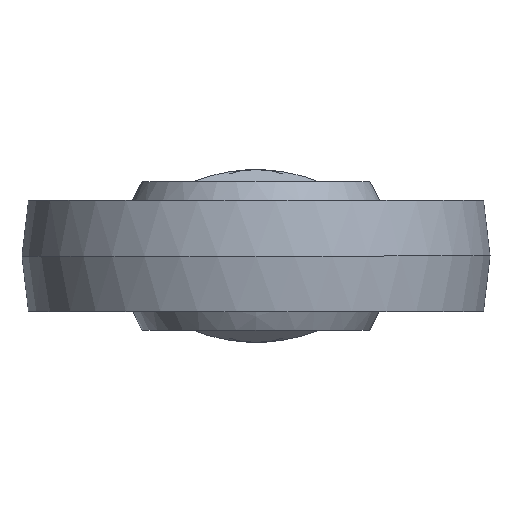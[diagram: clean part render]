
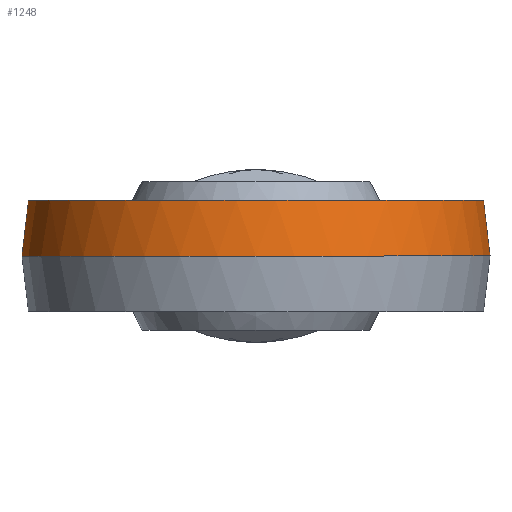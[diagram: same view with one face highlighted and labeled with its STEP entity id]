
A CAD part, left-side view. The second image highlights one B-rep face of the part: STEP entity #1248.
In plain terms, the highlighted spherical face has radius 19 mm.
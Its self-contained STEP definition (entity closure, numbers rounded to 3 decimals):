
#492 = DIRECTION ( 'NONE',  ( -1., 0., 0. ) ) ;
#493 = DIRECTION ( 'NONE',  ( 0., 0., -1. ) ) ;
#494 = CARTESIAN_POINT ( 'NONE',  ( 0., 0., 0. ) ) ;
#495 = AXIS2_PLACEMENT_3D ( 'NONE', #494, #493, #492 ) ;
#496 = CIRCLE ( 'NONE', #495, 19. ) ;
#539 = DIRECTION ( 'NONE',  ( 0., 1., 0. ) ) ;
#540 = DIRECTION ( 'NONE',  ( 0., 0., 1. ) ) ;
#541 = CARTESIAN_POINT ( 'NONE',  ( 0., 0., 0. ) ) ;
#542 = AXIS2_PLACEMENT_3D ( 'NONE', #541, #540, #539 ) ;
#543 = SPHERICAL_SURFACE ( 'NONE', #542, 19. ) ;
#545 = FACE_OUTER_BOUND ( 'NONE', #1321, .T. ) ;
#550 = CIRCLE ( 'NONE', #611, 18.459 ) ;
#556 = CARTESIAN_POINT ( 'NONE',  ( 12.827, -13.275, 4.5 ) ) ;
#563 = CARTESIAN_POINT ( 'NONE',  ( -19., 0., 0. ) ) ;
#564 = CARTESIAN_POINT ( 'NONE',  ( 12.827, 14.017, 0. ) ) ;
#585 = DIRECTION ( 'NONE',  ( 0., -1., 0. ) ) ;
#586 = DIRECTION ( 'NONE',  ( 0., 0., 1. ) ) ;
#587 = CARTESIAN_POINT ( 'NONE',  ( 0., 0., 0. ) ) ;
#588 = AXIS2_PLACEMENT_3D ( 'NONE', #587, #586, #585 ) ;
#589 = CIRCLE ( 'NONE', #588, 19. ) ;
#590 = CARTESIAN_POINT ( 'NONE',  ( 12.827, -14.017, 0. ) ) ;
#591 = DIRECTION ( 'NONE',  ( 0., 1., 0. ) ) ;
#592 = DIRECTION ( 'NONE',  ( 1., 0., 0. ) ) ;
#593 = CARTESIAN_POINT ( 'NONE',  ( 12.827, 0., 0. ) ) ;
#594 = AXIS2_PLACEMENT_3D ( 'NONE', #593, #592, #591 ) ;
#598 = CIRCLE ( 'NONE', #594, 14.017 ) ;
#602 = DIRECTION ( 'NONE',  ( 0., 1., 0. ) ) ;
#603 = DIRECTION ( 'NONE',  ( 1., 0., 0. ) ) ;
#604 = CARTESIAN_POINT ( 'NONE',  ( 12.827, 0., 0. ) ) ;
#605 = AXIS2_PLACEMENT_3D ( 'NONE', #604, #603, #602 ) ;
#606 = CIRCLE ( 'NONE', #605, 14.017 ) ;
#607 = CARTESIAN_POINT ( 'NONE',  ( 12.827, 13.275, 4.5 ) ) ;
#608 = DIRECTION ( 'NONE',  ( -1., 0., 0. ) ) ;
#609 = DIRECTION ( 'NONE',  ( 0., 0., 1. ) ) ;
#610 = CARTESIAN_POINT ( 'NONE',  ( 0., 0., 4.5 ) ) ;
#611 = AXIS2_PLACEMENT_3D ( 'NONE', #610, #609, #608 ) ;
#1205 = ORIENTED_EDGE ( 'NONE', *, *, #1286, .T. ) ;
#1245 = EDGE_CURVE ( 'NONE', #1267, #1266, #496, .T. ) ;
#1248 = ADVANCED_FACE ( 'NONE', ( #545 ), #543, .T. ) ;
#1266 = VERTEX_POINT ( 'NONE', #564 ) ;
#1267 = VERTEX_POINT ( 'NONE', #563 ) ;
#1274 = VERTEX_POINT ( 'NONE', #556 ) ;
#1275 = ORIENTED_EDGE ( 'NONE', *, *, #1276, .F. ) ;
#1276 = EDGE_CURVE ( 'NONE', #1277, #1274, #550, .T. ) ;
#1277 = VERTEX_POINT ( 'NONE', #607 ) ;
#1278 = ORIENTED_EDGE ( 'NONE', *, *, #1279, .F. ) ;
#1279 = EDGE_CURVE ( 'NONE', #1274, #1285, #606, .T. ) ;
#1282 = ORIENTED_EDGE ( 'NONE', *, *, #1283, .F. ) ;
#1283 = EDGE_CURVE ( 'NONE', #1266, #1277, #598, .T. ) ;
#1285 = VERTEX_POINT ( 'NONE', #590 ) ;
#1286 = EDGE_CURVE ( 'NONE', #1267, #1285, #589, .T. ) ;
#1321 = EDGE_LOOP ( 'NONE', ( #1322, #1205, #1278, #1275, #1282 ) ) ;
#1322 = ORIENTED_EDGE ( 'NONE', *, *, #1245, .F. ) ;
